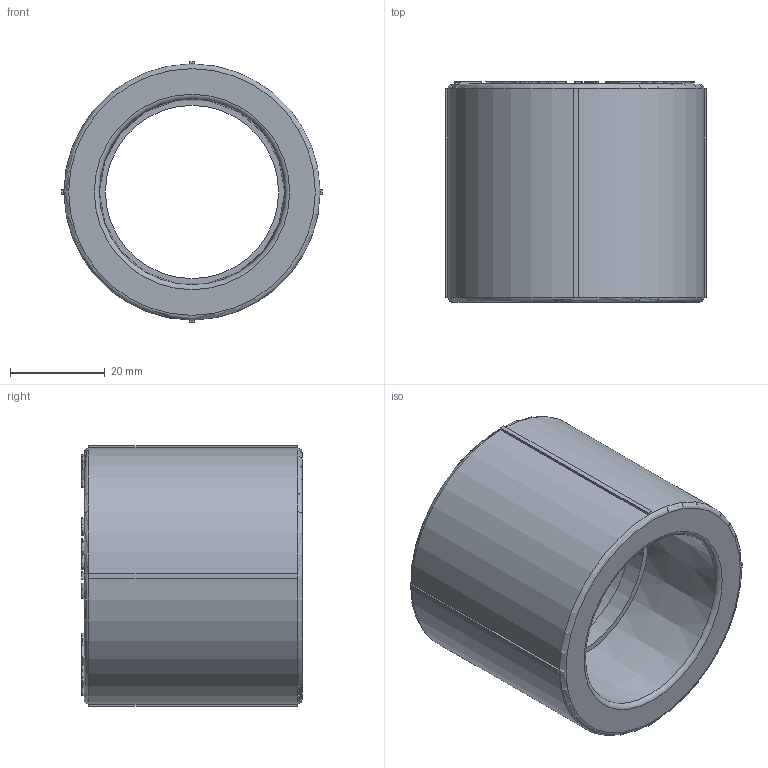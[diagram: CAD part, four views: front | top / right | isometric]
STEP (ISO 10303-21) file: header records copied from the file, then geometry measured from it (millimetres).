
FILE_DESCRIPTION(('STEP AP203'), '1');
FILE_NAME('ÂÐ.713151.004 - VTp.703.0.040', '', ('UNSPECIFIED'), ('UNSPECIFIED'), 'C3D Converter', 'C3D Toolkit', '');
FILE_SCHEMA(('CONFIG_CONTROL_DESIGN'));
Length unit declared in the file: millimetre
Products named in the file (1): ВР.713151.004
Bounding box: 55 x 46.5 x 55 mm (x, y, z)
Volume: 50740 mm3; surface area: 16008.2 mm2
Topology: 1 solids, 1 shells, 559 faces, 1557 edges, 1032 vertices
Faces by surface type: extrusion 312, plane 236, cylinder 5, torus 4, cone 2
Full cylindrical faces by diameter (mm): 36.5 x1
Entity records: 18168 total; most frequent: CARTESIAN_POINT 5014, ORIENTED_EDGE 3100, DIRECTION 1762, EDGE_CURVE 1550, VECTOR 1210, VERTEX_POINT 1032, B_SPLINE_CURVE_WITH_KNOTS 936, LINE 898
